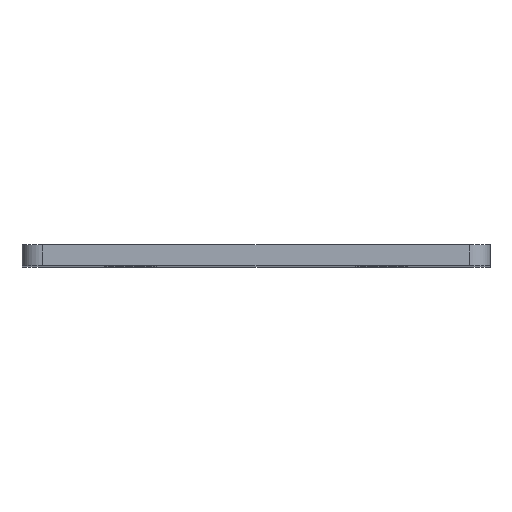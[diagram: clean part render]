
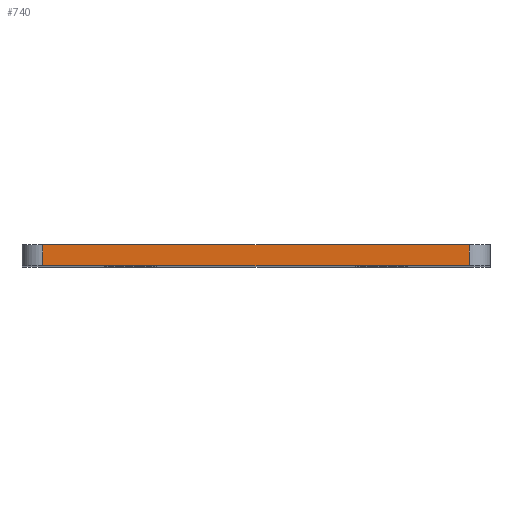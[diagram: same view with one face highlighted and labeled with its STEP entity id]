
A CAD part, top view. The second image highlights one B-rep face of the part: STEP entity #740.
In plain terms, the highlighted planar face has unit normal (0, 0, 1).
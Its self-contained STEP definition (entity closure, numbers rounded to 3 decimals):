
#14 = LINE ( 'NONE', #229, #23 ) ;
#23 = VECTOR ( 'NONE', #900, 1000. ) ;
#31 = VECTOR ( 'NONE', #764, 1000. ) ;
#65 = VERTEX_POINT ( 'NONE', #194 ) ;
#80 = PLANE ( 'NONE',  #337 ) ;
#130 = VERTEX_POINT ( 'NONE', #583 ) ;
#158 = CARTESIAN_POINT ( 'NONE',  ( -25.5, 0., 103. ) ) ;
#183 = LINE ( 'NONE', #711, #399 ) ;
#194 = CARTESIAN_POINT ( 'NONE',  ( -25.5, 0., 103. ) ) ;
#229 = CARTESIAN_POINT ( 'NONE',  ( 25.5, 0., 103. ) ) ;
#249 = DIRECTION ( 'NONE',  ( 1., 0., 0. ) ) ;
#271 = EDGE_CURVE ( 'NONE', #801, #130, #14, .T. ) ;
#306 = CARTESIAN_POINT ( 'NONE',  ( -28., 0., 103. ) ) ;
#328 = DIRECTION ( 'NONE',  ( 1., 0., 0. ) ) ;
#330 = VERTEX_POINT ( 'NONE', #916 ) ;
#337 = AXIS2_PLACEMENT_3D ( 'NONE', #306, #777, #249 ) ;
#399 = VECTOR ( 'NONE', #328, 1000. ) ;
#468 = EDGE_CURVE ( 'NONE', #65, #801, #183, .T. ) ;
#477 = ORIENTED_EDGE ( 'NONE', *, *, #468, .T. ) ;
#486 = DIRECTION ( 'NONE',  ( 1., 0., 0. ) ) ;
#499 = EDGE_CURVE ( 'NONE', #330, #130, #851, .T. ) ;
#569 = FACE_OUTER_BOUND ( 'NONE', #640, .T. ) ;
#583 = CARTESIAN_POINT ( 'NONE',  ( 25.5, 2.5, 103. ) ) ;
#612 = ORIENTED_EDGE ( 'NONE', *, *, #683, .T. ) ;
#629 = LINE ( 'NONE', #158, #31 ) ;
#631 = ORIENTED_EDGE ( 'NONE', *, *, #271, .T. ) ;
#633 = CARTESIAN_POINT ( 'NONE',  ( 25.5, 0., 103. ) ) ;
#640 = EDGE_LOOP ( 'NONE', ( #477, #631, #893, #612 ) ) ;
#683 = EDGE_CURVE ( 'NONE', #330, #65, #629, .T. ) ;
#711 = CARTESIAN_POINT ( 'NONE',  ( -28., 0., 103. ) ) ;
#717 = CARTESIAN_POINT ( 'NONE',  ( -28., 2.5, 103. ) ) ;
#740 = ADVANCED_FACE ( 'NONE', ( #569 ), #80, .T. ) ;
#764 = DIRECTION ( 'NONE',  ( 0., -1., 0. ) ) ;
#777 = DIRECTION ( 'NONE',  ( 0., 0., 1. ) ) ;
#801 = VERTEX_POINT ( 'NONE', #633 ) ;
#851 = LINE ( 'NONE', #717, #939 ) ;
#893 = ORIENTED_EDGE ( 'NONE', *, *, #499, .F. ) ;
#900 = DIRECTION ( 'NONE',  ( 0., 1., 0. ) ) ;
#916 = CARTESIAN_POINT ( 'NONE',  ( -25.5, 2.5, 103. ) ) ;
#939 = VECTOR ( 'NONE', #486, 1000. ) ;
